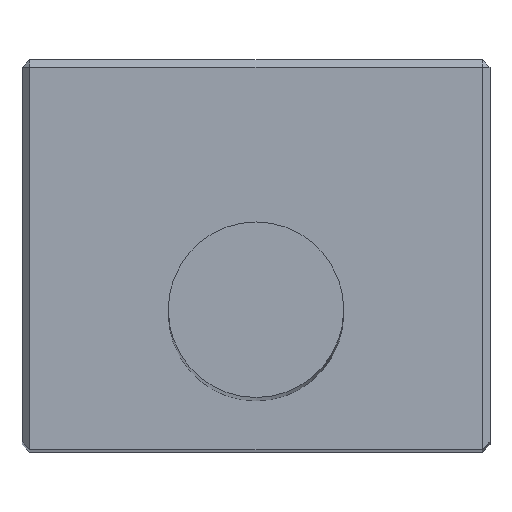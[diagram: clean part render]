
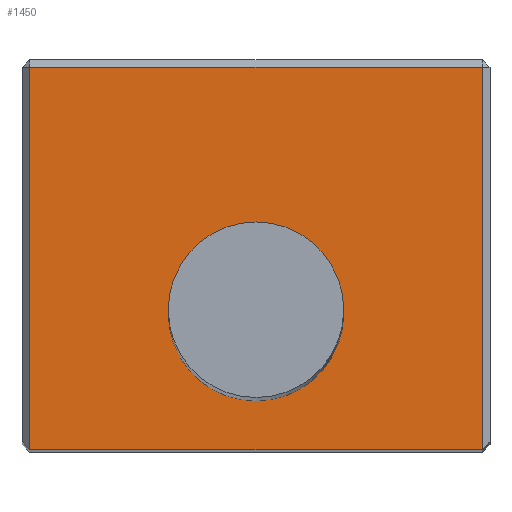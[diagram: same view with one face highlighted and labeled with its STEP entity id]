
A CAD part, top view. The second image highlights one B-rep face of the part: STEP entity #1450.
In plain terms, the highlighted planar face has unit normal (0, 0, 1).
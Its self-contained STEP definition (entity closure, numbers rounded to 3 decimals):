
#1 = DIRECTION ( 'NONE',  ( 1., 0., 0. ) ) ;
#34 = CARTESIAN_POINT ( 'NONE',  ( 0.2, 0., 40. ) ) ;
#80 = CARTESIAN_POINT ( 'NONE',  ( 11.8, 0., 40. ) ) ;
#112 = VERTEX_POINT ( 'NONE', #1818 ) ;
#128 = DIRECTION ( 'NONE',  ( -1., 0., 0. ) ) ;
#183 = VERTEX_POINT ( 'NONE', #34 ) ;
#210 = VERTEX_POINT ( 'NONE', #325 ) ;
#217 = DIRECTION ( 'NONE',  ( 0., -1., 0. ) ) ;
#236 = LINE ( 'NONE', #1829, #557 ) ;
#240 = AXIS2_PLACEMENT_3D ( 'NONE', #520, #1815, #647 ) ;
#304 = LINE ( 'NONE', #1631, #437 ) ;
#324 = ORIENTED_EDGE ( 'NONE', *, *, #1112, .T. ) ;
#325 = CARTESIAN_POINT ( 'NONE',  ( 3.75, 3.5, 40. ) ) ;
#342 = ORIENTED_EDGE ( 'NONE', *, *, #488, .F. ) ;
#358 = VERTEX_POINT ( 'NONE', #80 ) ;
#379 = EDGE_CURVE ( 'NONE', #1135, #183, #304, .T. ) ;
#408 = FACE_BOUND ( 'NONE', #942, .T. ) ;
#437 = VECTOR ( 'NONE', #217, 1000. ) ;
#488 = EDGE_CURVE ( 'NONE', #112, #210, #1167, .T. ) ;
#520 = CARTESIAN_POINT ( 'NONE',  ( 6., 3.5, 40. ) ) ;
#553 = CARTESIAN_POINT ( 'NONE',  ( 0., 0., 40. ) ) ;
#557 = VECTOR ( 'NONE', #128, 1000. ) ;
#576 = CARTESIAN_POINT ( 'NONE',  ( 6., 3.5, 40. ) ) ;
#578 = DIRECTION ( 'NONE',  ( 0., 0., -1. ) ) ;
#589 = DIRECTION ( 'NONE',  ( 0., 0., 1. ) ) ;
#617 = EDGE_CURVE ( 'NONE', #679, #1135, #236, .T. ) ;
#630 = DIRECTION ( 'NONE',  ( 0., 1., 0. ) ) ;
#647 = DIRECTION ( 'NONE',  ( 1., 0., 0. ) ) ;
#679 = VERTEX_POINT ( 'NONE', #850 ) ;
#684 = VECTOR ( 'NONE', #1, 1000. ) ;
#734 = ORIENTED_EDGE ( 'NONE', *, *, #814, .T. ) ;
#799 = AXIS2_PLACEMENT_3D ( 'NONE', #576, #589, #1127 ) ;
#814 = EDGE_CURVE ( 'NONE', #183, #358, #1730, .T. ) ;
#850 = CARTESIAN_POINT ( 'NONE',  ( 11.8, 9.8, 40. ) ) ;
#942 = EDGE_LOOP ( 'NONE', ( #342, #1798 ) ) ;
#1112 = EDGE_CURVE ( 'NONE', #358, #679, #1664, .T. ) ;
#1127 = DIRECTION ( 'NONE',  ( 1., 0., 0. ) ) ;
#1135 = VERTEX_POINT ( 'NONE', #1608 ) ;
#1167 = CIRCLE ( 'NONE', #240, 2.25 ) ;
#1218 = AXIS2_PLACEMENT_3D ( 'NONE', #1271, #578, #1697 ) ;
#1271 = CARTESIAN_POINT ( 'NONE',  ( 0., 10., 40. ) ) ;
#1280 = CIRCLE ( 'NONE', #799, 2.25 ) ;
#1396 = ORIENTED_EDGE ( 'NONE', *, *, #379, .T. ) ;
#1450 = ADVANCED_FACE ( 'NONE', ( #1709, #408 ), #1840, .F. ) ;
#1486 = CARTESIAN_POINT ( 'NONE',  ( 11.8, 10., 40. ) ) ;
#1528 = VECTOR ( 'NONE', #630, 1000. ) ;
#1608 = CARTESIAN_POINT ( 'NONE',  ( 0.2, 9.8, 40. ) ) ;
#1631 = CARTESIAN_POINT ( 'NONE',  ( 0.2, 10., 40. ) ) ;
#1651 = EDGE_LOOP ( 'NONE', ( #734, #324, #1831, #1396 ) ) ;
#1664 = LINE ( 'NONE', #1486, #1528 ) ;
#1697 = DIRECTION ( 'NONE',  ( -1., 0., 0. ) ) ;
#1709 = FACE_OUTER_BOUND ( 'NONE', #1651, .T. ) ;
#1730 = LINE ( 'NONE', #553, #684 ) ;
#1798 = ORIENTED_EDGE ( 'NONE', *, *, #1814, .F. ) ;
#1814 = EDGE_CURVE ( 'NONE', #210, #112, #1280, .T. ) ;
#1815 = DIRECTION ( 'NONE',  ( 0., 0., 1. ) ) ;
#1818 = CARTESIAN_POINT ( 'NONE',  ( 8.25, 3.5, 40. ) ) ;
#1829 = CARTESIAN_POINT ( 'NONE',  ( 0., 9.8, 40. ) ) ;
#1831 = ORIENTED_EDGE ( 'NONE', *, *, #617, .T. ) ;
#1840 = PLANE ( 'NONE',  #1218 ) ;
